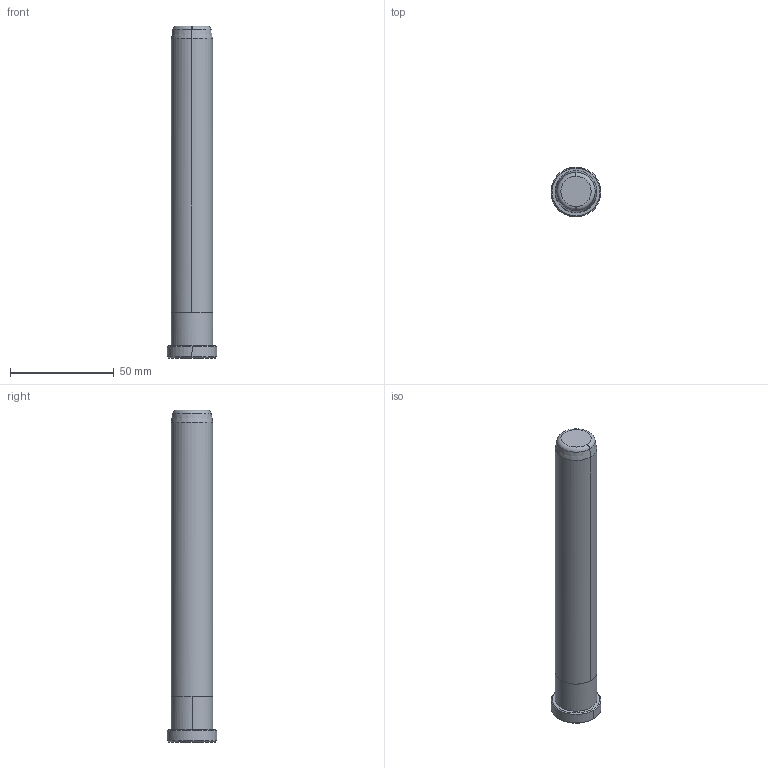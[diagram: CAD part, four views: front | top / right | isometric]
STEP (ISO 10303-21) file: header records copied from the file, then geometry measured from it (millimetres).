
FILE_DESCRIPTION(('CATIA V5 STEP Exchange'),'2;1');
FILE_NAME('C:\Users\Raffaele\Desktop\3D BOLEX\3D FILES CF BOLEX\12-PILLAR REF 858\B85820160.stp','2019-06-20T12:43:24+00:00',('none'),('none'),'CATIA Version 5 Release 20 GA (IN-10)','CATIA V5 STEP AP203','none');
FILE_SCHEMA(('CONFIG_CONTROL_DESIGN'));
Length unit declared in the file: millimetre
Products named in the file (1): B85820160
Bounding box: 24 x 24 x 160 mm (x, y, z)
Volume: 50863.3 mm3; surface area: 10879 mm2
Topology: 1 solids, 1 shells, 20 faces, 40 edges, 24 vertices
Faces by surface type: cone 6, cylinder 6, plane 4, torus 4
Entity records: 677 total; most frequent: CARTESIAN_POINT 238, ORIENTED_EDGE 80, DIRECTION 71, AXIS2_PLACEMENT_3D 40, EDGE_CURVE 40, VERTEX_POINT 24, EDGE_LOOP 22, ADVANCED_FACE 20
